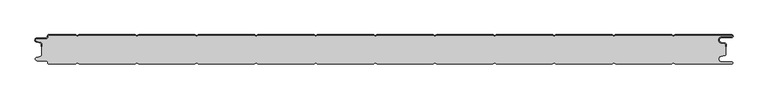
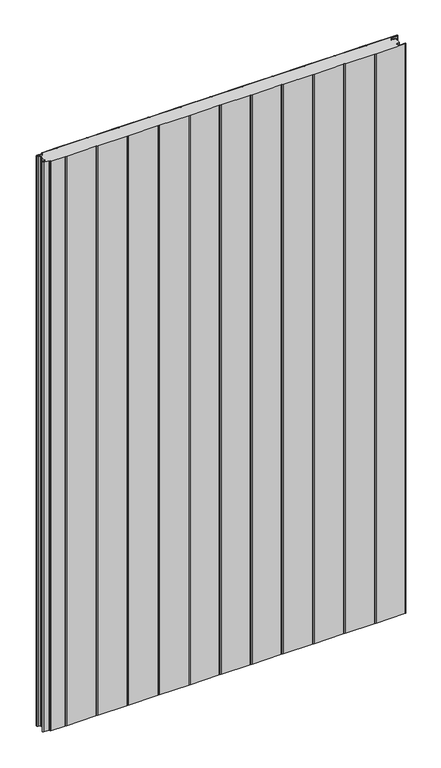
"""IFC4 building model written with IfcOpenShell, lengths in millimetres: plate geometry, PM1_Curtain-Panel_Perfil-Frigorífico : ACH_PM1_Panel-Acústico-Sectorización_50M."""

from ifc_helpers import new_model, si_unit, point, frame, frame_2d, origin, origin_with_axes, place, context, project, spatial, polyline, circle_curve, trimmed, segment, composite_curve, outline, extrude, source, transform, mapped, element, save
from ifc_brep_helpers import plane_surface, cylinder_surface, revolved_surface, advanced_brep


def plate_c0fbc9e0(model_context):
    return source(origin(), model_context, "Body", "SolidModel", [
        advanced_brep(
        [(-575.0, -15.878557, 1945.7507136), (-575.0, -20.0, 1945.7507136), (-574.2, -20.0, 1945.7507136), (-574.2, -15.878557, 1945.7507136), (-576.370137, -13.1503208, 1945.7507136), (-582.529863, -11.728236, 1945.7507136), (-581.9, -6.2, 1945.7507136), (-566.4, -6.2, 1945.7507136), (-563.6, -3.4, 1945.7507136), (-563.6, -2.0, 1945.7507136), (-562.4, -0.8, 1945.7507136), (-517.3143588, -0.8, 1945.7507136), (-514.4, -2.482606, 1945.7507136), (-511.4856412, -0.8, 1945.7507136), (-417.3143588, -0.8, 1945.7507136), (-414.4, -2.482606, 1945.7507136), (-411.4856412, -0.8, 1945.7507136), (-317.3143588, -0.8, 1945.7507136), (-314.4, -2.482606, 1945.7507136), (-311.4856412, -0.8, 1945.7507136), (-217.3143588, -0.8, 1945.7507136), (-214.4, -2.482606, 1945.7507136), (-211.4856412, -0.8, 1945.7507136), (-117.3143588, -0.8, 1945.7507136), (-114.4, -2.482606, 1945.7507136), (-111.4856412, -0.8, 1945.7507136), (-17.3143588, -0.8, 1945.7507136), (-14.4, -2.482606, 1945.7507136), (-11.4856412, -0.8, 1945.7507136), (82.6856412, -0.8, 1945.7507136), (85.6, -2.482606, 1945.7507136), (88.5143588, -0.8, 1945.7507136), (182.6856412, -0.8, 1945.7507136), (185.6, -2.482606, 1945.7507136), (188.5143588, -0.8, 1945.7507136), (282.6856412, -0.8, 1945.7507136), (285.6, -2.482606, 1945.7507136), (288.5143588, -0.8, 1945.7507136), (382.6856412, -0.8, 1945.7507136), (385.6, -2.482606, 1945.7507136), (388.5143588, -0.8, 1945.7507136), (482.6856412, -0.8, 1945.7507136), (485.6, -2.482606, 1945.7507136), (488.5143588, -0.8, 1945.7507136), (583.1, -0.8, 1945.7507136), (583.1, -4.2, 1945.7507136), (566.1, -4.2, 1945.7507136), (565.2664884, -13.7270771, 1945.7507136), (571.7125669, -14.8636953, 1945.7507136), (573.2, -16.6363492, 1945.7507136), (573.2, -20.0, 1945.7507136), (574.0, -20.0, 1945.7507136), (574.0, -16.6363492, 1945.7507136), (571.8514855, -14.0758491, 1945.7507136), (565.405407, -12.939231, 1945.7507136), (566.1, -5.0, 1945.7507136), (583.1, -5.0, 1945.7507136), (585.6, -2.5, 1945.7507136), (583.1, 0.0, 1945.7507136), (488.2999995, 0.0, 1945.7507136), (485.6, -1.5588455, 1945.7507136), (482.9000005, 0.0, 1945.7507136), (388.2999995, 0.0, 1945.7507136), (385.6, -1.5588455, 1945.7507136), (382.9000005, 0.0, 1945.7507136), (288.2999995, 0.0, 1945.7507136), (285.6, -1.5588455, 1945.7507136), (282.9000005, 0.0, 1945.7507136), (188.2999995, 0.0, 1945.7507136), (185.6, -1.5588455, 1945.7507136), (182.9000005, 0.0, 1945.7507136), (88.2999995, 0.0, 1945.7507136), (85.6, -1.5588455, 1945.7507136), (82.9000005, 0.0, 1945.7507136), (-11.7000005, 0.0, 1945.7507136), (-14.4, -1.5588455, 1945.7507136), (-17.0999995, 0.0, 1945.7507136), (-111.7000005, 0.0, 1945.7507136), (-114.4, -1.5588455, 1945.7507136), (-117.0999995, 0.0, 1945.7507136), (-211.7000005, 0.0, 1945.7507136), (-214.4, -1.5588455, 1945.7507136), (-217.0999995, 0.0, 1945.7507136), (-311.7000005, 0.0, 1945.7507136), (-314.4, -1.5588455, 1945.7507136), (-317.0999995, 0.0, 1945.7507136), (-411.7000005, 0.0, 1945.7507136), (-414.4, -1.5588455, 1945.7507136), (-417.0999995, 0.0, 1945.7507136), (-511.7000005, 0.0, 1945.7507136), (-514.4, -1.5588455, 1945.7507136), (-517.0999995, 0.0, 1945.7507136), (-562.4, 0.0, 1945.7507136), (-564.4, -2.0, 1945.7507136), (-564.4, -3.4, 1945.7507136), (-566.4, -5.4, 1945.7507136), (-581.9, -5.4, 1945.7507136), (-582.7098239, -12.5077322, 1945.7507136), (-576.5500979, -13.929817, 1945.7507136), (-575.0, -15.878557, 0.0), (-576.5500978, -13.9298169, 0.0), (-582.7098239, -12.507732, 0.0), (-581.9, -5.4, 0.0), (-566.4, -5.4, 0.0), (-564.4, -3.4, 0.0), (-564.4, -2.0, 0.0), (-562.4, 0.0, 0.0), (-517.0999995, 0.0, 0.0), (-514.4, -1.5588455, 0.0), (-511.7000005, 0.0, 0.0), (-417.0999995, 0.0, 0.0), (-414.4, -1.5588455, 0.0), (-411.7000005, 0.0, 0.0), (-317.0999995, 0.0, 0.0), (-314.4, -1.5588455, 0.0), (-311.7000005, 0.0, 0.0), (-217.0999995, 0.0, 0.0), (-214.4, -1.5588455, 0.0), (-211.7000005, 0.0, 0.0), (-117.0999995, 0.0, 0.0), (-114.4, -1.5588455, 0.0), (-111.7000005, 0.0, 0.0), (-17.0999995, 0.0, 0.0), (-14.4, -1.5588455, 0.0), (-11.7000005, 0.0, 0.0), (82.9000005, 0.0, 0.0), (85.6, -1.5588455, 0.0), (88.2999995, 0.0, 0.0), (182.9000005, 0.0, 0.0), (185.6, -1.5588455, 0.0), (188.2999995, 0.0, 0.0), (282.9000005, 0.0, 0.0), (285.6, -1.5588455, 0.0), (288.2999995, 0.0, 0.0), (382.9000005, 0.0, 0.0), (385.6, -1.5588455, 0.0), (388.2999995, 0.0, 0.0), (482.9000005, 0.0, 0.0), (485.6, -1.5588455, 0.0), (488.2999995, 0.0, 0.0), (583.1, 0.0, 0.0), (585.6, -2.5, 0.0), (583.1, -5.0, 0.0), (566.1, -5.0, 0.0), (565.405407, -12.939231, 0.0), (571.8514855, -14.0758491, 0.0), (574.0, -16.6363492, 0.0), (574.0, -20.0, 0.0), (573.2, -20.0, 0.0), (573.2, -16.6363492, 0.0), (571.7125669, -14.8636953, 0.0), (565.2664884, -13.7270772, 0.0), (566.1, -4.2, 0.0), (583.1, -4.2, 0.0), (583.1, -0.8, 0.0), (488.5143588, -0.8, 0.0), (485.6, -2.482606, 0.0), (482.6856412, -0.8, 0.0), (388.5143588, -0.8, 0.0), (385.6, -2.482606, 0.0), (382.6856412, -0.8, 0.0), (288.5143588, -0.8, 0.0), (285.6, -2.482606, 0.0), (282.6856412, -0.8, 0.0), (188.5143588, -0.8, 0.0), (185.6, -2.482606, 0.0), (182.6856412, -0.8, 0.0), (88.5143588, -0.8, 0.0), (85.6, -2.482606, 0.0), (82.6856412, -0.8, 0.0), (-11.4856412, -0.8, 0.0), (-14.4, -2.482606, 0.0), (-17.3143588, -0.8, 0.0), (-111.4856412, -0.8, 0.0), (-114.4, -2.482606, 0.0), (-117.3143588, -0.8, 0.0), (-211.4856412, -0.8, 0.0), (-214.4, -2.482606, 0.0), (-217.3143588, -0.8, 0.0), (-311.4856412, -0.8, 0.0), (-314.4, -2.482606, 0.0), (-317.3143588, -0.8, 0.0), (-411.4856412, -0.8, 0.0), (-414.4, -2.482606, 0.0), (-417.3143588, -0.8, 0.0), (-511.4856412, -0.8, 0.0), (-514.4, -2.482606, 0.0), (-517.3143588, -0.8, 0.0), (-562.4, -0.8, 0.0), (-563.6, -2.0, 0.0), (-563.6, -3.4, 0.0), (-566.4, -6.2, 0.0), (-581.9, -6.2, 0.0), (-582.529863, -11.7282362, 0.0), (-576.370137, -13.150321, 0.0), (-574.2, -15.878557, 0.0), (-574.2, -20.0, 0.0), (-575.0, -20.0, 0.0)],
        [
            (0, 1),
            (1, 2),
            (2, 3),
            (3, 4, circle_curve(frame((-577.0, -15.878557, 1945.7507136), z_axis=(0.0, 0.0, 1.0), x_axis=(1.0, 0.0, 0.0)), 2.8)),
            (4, 5),
            (5, 6, circle_curve(frame((-581.9, -9.0, 1945.7507136), z_axis=(0.0, 0.0, -1.0), x_axis=(1.0, 0.0, 0.0)), 2.8)),
            (6, 7),
            (7, 8, circle_curve(frame((-566.4, -3.4, 1945.7507136), z_axis=(0.0, 0.0, 1.0), x_axis=(1.0, 0.0, 0.0)), 2.8)),
            (8, 9),
            (9, 10, circle_curve(frame((-562.4, -2.0, 1945.7507136), z_axis=(0.0, 0.0, -1.0), x_axis=(1.0, 0.0, 0.0)), 1.2)),
            (10, 11),
            (11, 12),
            (12, 13),
            (13, 14),
            (14, 15),
            (15, 16),
            (16, 17),
            (17, 18),
            (18, 19),
            (19, 20),
            (20, 21),
            (21, 22),
            (22, 23),
            (23, 24),
            (24, 25),
            (25, 26),
            (26, 27),
            (27, 28),
            (28, 29),
            (29, 30),
            (30, 31),
            (31, 32),
            (32, 33),
            (33, 34),
            (34, 35),
            (35, 36),
            (36, 37),
            (37, 38),
            (38, 39),
            (39, 40),
            (40, 41),
            (41, 42),
            (42, 43),
            (43, 44),
            (44, 45, circle_curve(frame((583.1, -2.5, 1945.7507136), z_axis=(0.0, 0.0, -1.0), x_axis=(1.0, 0.0, 0.0)), 1.7)),
            (45, 46),
            (46, 47, circle_curve(frame((566.1, -9.0, 1945.7507136), z_axis=(0.0, 0.0, 1.0), x_axis=(1.0, 0.0, 0.0)), 4.8)),
            (47, 48),
            (48, 49, circle_curve(frame((571.4, -16.6363492, 1945.7507136), z_axis=(0.0, 0.0, -1.0), x_axis=(1.0, 0.0, 0.0)), 1.8)),
            (49, 50),
            (50, 51),
            (51, 52),
            (52, 53, circle_curve(frame((571.4, -16.6363492, 1945.7507136), z_axis=(0.0, 0.0, 1.0), x_axis=(1.0, 0.0, 0.0)), 2.6)),
            (53, 54),
            (54, 55, circle_curve(frame((566.1, -9.0, 1945.7507136), z_axis=(0.0, 0.0, -1.0), x_axis=(1.0, 0.0, 0.0)), 4.0)),
            (55, 56),
            (56, 57, circle_curve(frame((583.1, -2.5, 1945.7507136), z_axis=(0.0, 0.0, 1.0), x_axis=(1.0, 0.0, 0.0)), 2.5)),
            (57, 58, circle_curve(frame((583.1, -2.5, 1945.7507136), z_axis=(0.0, 0.0, 1.0), x_axis=(1.0, 0.0, 0.0)), 2.5)),
            (58, 59),
            (59, 60),
            (60, 61),
            (61, 62),
            (62, 63),
            (63, 64),
            (64, 65),
            (65, 66),
            (66, 67),
            (67, 68),
            (68, 69),
            (69, 70),
            (70, 71),
            (71, 72),
            (72, 73),
            (73, 74),
            (74, 75),
            (75, 76),
            (76, 77),
            (77, 78),
            (78, 79),
            (79, 80),
            (80, 81),
            (81, 82),
            (82, 83),
            (83, 84),
            (84, 85),
            (85, 86),
            (86, 87),
            (87, 88),
            (88, 89),
            (89, 90),
            (90, 91),
            (91, 92),
            (92, 93, circle_curve(frame((-562.4, -2.0, 1945.7507136), z_axis=(0.0, 0.0, 1.0), x_axis=(1.0, 0.0, 0.0)), 2.0)),
            (93, 94),
            (94, 95, circle_curve(frame((-566.4, -3.4, 1945.7507136), z_axis=(0.0, 0.0, -1.0), x_axis=(1.0, 0.0, 0.0)), 2.0)),
            (95, 96),
            (96, 97, circle_curve(frame((-581.9, -9.0, 1945.7507136), z_axis=(0.0, 0.0, 1.0), x_axis=(1.0, 0.0, 0.0)), 3.6)),
            (97, 98),
            (98, 0, circle_curve(frame((-577.0, -15.878557, 1945.7507136), z_axis=(0.0, 0.0, -1.0), x_axis=(1.0, 0.0, 0.0)), 2.0)),
            (99, 100, circle_curve(frame((-577.0, -15.878557, 0.0), z_axis=(0.0, 0.0, 1.0), x_axis=(1.0, 0.0, 0.0)), 2.0)),
            (100, 101),
            (101, 102, circle_curve(frame((-581.9, -9.0, 0.0), z_axis=(0.0, 0.0, -1.0), x_axis=(1.0, 0.0, 0.0)), 3.6)),
            (102, 103),
            (103, 104, circle_curve(frame((-566.4, -3.4, 0.0), z_axis=(0.0, 0.0, 1.0), x_axis=(1.0, 0.0, 0.0)), 2.0)),
            (104, 105),
            (105, 106, circle_curve(frame((-562.4, -2.0, 0.0), z_axis=(0.0, 0.0, -1.0), x_axis=(1.0, 0.0, 0.0)), 2.0)),
            (106, 107),
            (107, 108),
            (108, 109),
            (109, 110),
            (110, 111),
            (111, 112),
            (112, 113),
            (113, 114),
            (114, 115),
            (115, 116),
            (116, 117),
            (117, 118),
            (118, 119),
            (119, 120),
            (120, 121),
            (121, 122),
            (122, 123),
            (123, 124),
            (124, 125),
            (125, 126),
            (126, 127),
            (127, 128),
            (128, 129),
            (129, 130),
            (130, 131),
            (131, 132),
            (132, 133),
            (133, 134),
            (134, 135),
            (135, 136),
            (136, 137),
            (137, 138),
            (138, 139),
            (139, 140),
            (140, 141, circle_curve(frame((583.1, -2.5, 0.0), z_axis=(0.0, 0.0, -1.0), x_axis=(1.0, 0.0, 0.0)), 2.5)),
            (141, 142, circle_curve(frame((583.1, -2.5, 0.0), z_axis=(0.0, 0.0, -1.0), x_axis=(1.0, 0.0, 0.0)), 2.5)),
            (142, 143),
            (143, 144, circle_curve(frame((566.1, -9.0, 0.0), z_axis=(0.0, 0.0, 1.0), x_axis=(1.0, 0.0, 0.0)), 4.0)),
            (144, 145),
            (145, 146, circle_curve(frame((571.4, -16.6363492, 0.0), z_axis=(0.0, 0.0, -1.0), x_axis=(1.0, 0.0, 0.0)), 2.6)),
            (146, 147),
            (147, 148),
            (148, 149),
            (149, 150, circle_curve(frame((571.4, -16.6363492, 0.0), z_axis=(0.0, 0.0, 1.0), x_axis=(1.0, 0.0, 0.0)), 1.8)),
            (150, 151),
            (151, 152, circle_curve(frame((566.1, -9.0, 0.0), z_axis=(0.0, 0.0, -1.0), x_axis=(1.0, 0.0, 0.0)), 4.8)),
            (152, 153),
            (153, 154, circle_curve(frame((583.1, -2.5, 0.0), z_axis=(0.0, 0.0, 1.0), x_axis=(1.0, 0.0, 0.0)), 1.7)),
            (154, 155),
            (155, 156),
            (156, 157),
            (157, 158),
            (158, 159),
            (159, 160),
            (160, 161),
            (161, 162),
            (162, 163),
            (163, 164),
            (164, 165),
            (165, 166),
            (166, 167),
            (167, 168),
            (168, 169),
            (169, 170),
            (170, 171),
            (171, 172),
            (172, 173),
            (173, 174),
            (174, 175),
            (175, 176),
            (176, 177),
            (177, 178),
            (178, 179),
            (179, 180),
            (180, 181),
            (181, 182),
            (182, 183),
            (183, 184),
            (184, 185),
            (185, 186),
            (186, 187),
            (187, 188),
            (188, 189, circle_curve(frame((-562.4, -2.0, 0.0), z_axis=(0.0, 0.0, 1.0), x_axis=(1.0, 0.0, 0.0)), 1.2)),
            (189, 190),
            (190, 191, circle_curve(frame((-566.4, -3.4, 0.0), z_axis=(0.0, 0.0, -1.0), x_axis=(1.0, 0.0, 0.0)), 2.8)),
            (191, 192),
            (192, 193, circle_curve(frame((-581.9, -9.0, 0.0), z_axis=(0.0, 0.0, 1.0), x_axis=(1.0, 0.0, 0.0)), 2.8)),
            (193, 194),
            (194, 195, circle_curve(frame((-577.0, -15.878557, 0.0), z_axis=(0.0, 0.0, -1.0), x_axis=(1.0, 0.0, 0.0)), 2.8)),
            (195, 196),
            (196, 197),
            (197, 99),
            (0, 99),
            (197, 1),
            (196, 2),
            (195, 3),
            (194, 4),
            (193, 5),
            (192, 6),
            (191, 7),
            (190, 8),
            (189, 9),
            (188, 10),
            (187, 11),
            (186, 12),
            (185, 13),
            (184, 14),
            (183, 15),
            (182, 16),
            (181, 17),
            (180, 18),
            (179, 19),
            (178, 20),
            (177, 21),
            (176, 22),
            (175, 23),
            (174, 24),
            (173, 25),
            (172, 26),
            (171, 27),
            (170, 28),
            (169, 29),
            (168, 30),
            (167, 31),
            (166, 32),
            (165, 33),
            (164, 34),
            (163, 35),
            (162, 36),
            (161, 37),
            (160, 38),
            (159, 39),
            (158, 40),
            (157, 41),
            (156, 42),
            (155, 43),
            (154, 44),
            (153, 45),
            (152, 46),
            (151, 47),
            (150, 48),
            (149, 49),
            (148, 50),
            (147, 51),
            (146, 52),
            (145, 53),
            (144, 54),
            (143, 55),
            (142, 56),
            (140, 58),
            (139, 59),
            (138, 60),
            (137, 61),
            (136, 62),
            (135, 63),
            (134, 64),
            (133, 65),
            (132, 66),
            (131, 67),
            (130, 68),
            (129, 69),
            (128, 70),
            (127, 71),
            (126, 72),
            (125, 73),
            (124, 74),
            (123, 75),
            (122, 76),
            (121, 77),
            (120, 78),
            (119, 79),
            (118, 80),
            (117, 81),
            (116, 82),
            (115, 83),
            (114, 84),
            (113, 85),
            (112, 86),
            (111, 87),
            (110, 88),
            (109, 89),
            (108, 90),
            (107, 91),
            (106, 92),
            (105, 93),
            (104, 94),
            (103, 95),
            (102, 96),
            (101, 97),
            (100, 98),
        ],
        [
            plane_surface(frame((-575.0, 0.0, 1945.7507136), z_axis=(0.0, 0.0, 1.0), x_axis=(0.0, 1.0, 0.0))),
            plane_surface(frame((-575.0, 0.0, 0.0), z_axis=(0.0, 0.0, -1.0), x_axis=(0.0, 1.0, 0.0))),
            plane_surface(frame((-575.0, -15.878557, 1945.7507136), z_axis=(-1.0, 0.0, 0.0), x_axis=(0.0, 0.0, -1.0))),
            plane_surface(frame((-575.0, -20.0, 1945.7507136), z_axis=(0.0, -1.0, 0.0), x_axis=(0.0, 0.0, -1.0))),
            plane_surface(frame((-574.2, -20.0, 1945.7507136), z_axis=(1.0, 0.0, 0.0), x_axis=(0.0, 0.0, -1.0))),
            cylinder_surface(frame((-577.0, -15.878557, 1945.7507136), z_axis=(0.0, 0.0, 1.0), x_axis=(1.0, 0.0, 0.0)), 2.8),
            plane_surface(frame((-576.370137, -13.150321, 1945.7507136), z_axis=(0.22495108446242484, 0.9743700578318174, 0.0), x_axis=(0.0, 0.0, -1.0))),
            revolved_surface(polyline([(-579.1, -9.0, 0.0), (-579.1, -9.0, 1945.7507136)]), (-581.9, -9.0, 1945.7507136), (0.0, 0.0, -1.0)),
            plane_surface(frame((-581.9, -6.2, 1945.7507136), z_axis=(0.0, -1.0, 0.0), x_axis=(0.0, 0.0, -1.0))),
            cylinder_surface(frame((-566.4, -3.4, 1945.7507136), z_axis=(0.0, 0.0, 1.0), x_axis=(1.0, 0.0, 0.0)), 2.8),
            plane_surface(frame((-563.6, -3.4, 1945.7507136), z_axis=(1.0, 0.0, 0.0), x_axis=(0.0, 0.0, -1.0))),
            revolved_surface(polyline([(-561.1999999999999, -2.0, 0.0), (-561.1999999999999, -2.0, 1945.7507136)]), (-562.4, -2.0, 1945.7507136), (0.0, 0.0, -1.0)),
            plane_surface(frame((-562.4, -0.8, 1945.7507136), z_axis=(0.0, -1.0, 0.0), x_axis=(0.0, 0.0, -1.0))),
            plane_surface(frame((-517.3143588, -0.8, 1945.7507136), z_axis=(-0.5000000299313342, -0.8660253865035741, 0.0), x_axis=(0.0, 0.0, -1.0))),
            plane_surface(frame((-514.4, -2.482606, 1945.7507136), z_axis=(0.5000000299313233, -0.8660253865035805, 0.0), x_axis=(0.0, 0.0, -1.0))),
            plane_surface(frame((-511.4856412, -0.8, 1945.7507136), z_axis=(0.0, -1.0, 0.0), x_axis=(0.0, 0.0, -1.0))),
            plane_surface(frame((-417.3143588, -0.8, 1945.7507136), z_axis=(-0.5000000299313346, -0.8660253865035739, 0.0), x_axis=(0.0, 0.0, -1.0))),
            plane_surface(frame((-414.4, -2.482606, 1945.7507136), z_axis=(0.5000000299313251, -0.8660253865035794, 0.0), x_axis=(0.0, 0.0, -1.0))),
            plane_surface(frame((-411.4856412, -0.8, 1945.7507136), z_axis=(0.0, -1.0, 0.0), x_axis=(0.0, 0.0, -1.0))),
            plane_surface(frame((-317.3143588, -0.8, 1945.7507136), z_axis=(-0.5000000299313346, -0.866025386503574, 0.0), x_axis=(0.0, 0.0, -1.0))),
            plane_surface(frame((-314.4, -2.482606, 1945.7507136), z_axis=(0.5000000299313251, -0.8660253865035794, 0.0), x_axis=(0.0, 0.0, -1.0))),
            plane_surface(frame((-311.4856412, -0.8, 1945.7507136), z_axis=(0.0, -1.0, 0.0), x_axis=(0.0, 0.0, -1.0))),
            plane_surface(frame((-217.3143588, -0.8, 1945.7507136), z_axis=(-0.5000000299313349, -0.8660253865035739, 0.0), x_axis=(0.0, 0.0, -1.0))),
            plane_surface(frame((-214.4, -2.482606, 1945.7507136), z_axis=(0.5000000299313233, -0.8660253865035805, 0.0), x_axis=(0.0, 0.0, -1.0))),
            plane_surface(frame((-211.4856412, -0.8, 1945.7507136), z_axis=(0.0, -1.0, 0.0), x_axis=(0.0, 0.0, -1.0))),
            plane_surface(frame((-117.3143588, -0.8, 1945.7507136), z_axis=(-0.5000000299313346, -0.866025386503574, 0.0), x_axis=(0.0, 0.0, -1.0))),
            plane_surface(frame((-114.4, -2.482606, 1945.7507136), z_axis=(0.5000000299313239, -0.8660253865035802, 0.0), x_axis=(0.0, 0.0, -1.0))),
            plane_surface(frame((-111.4856412, -0.8, 1945.7507136), z_axis=(0.0, -1.0, 0.0), x_axis=(0.0, 0.0, -1.0))),
            plane_surface(frame((-17.3143588, -0.8, 1945.7507136), z_axis=(-0.5000000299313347, -0.8660253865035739, 0.0), x_axis=(0.0, 0.0, -1.0))),
            plane_surface(frame((-14.4, -2.482606, 1945.7507136), z_axis=(0.5000000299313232, -0.8660253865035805, 0.0), x_axis=(0.0, 0.0, -1.0))),
            plane_surface(frame((-11.4856412, -0.8, 1945.7507136), z_axis=(0.0, -1.0, 0.0), x_axis=(0.0, 0.0, -1.0))),
            plane_surface(frame((82.6856412, -0.8, 1945.7507136), z_axis=(-0.5000000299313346, -0.866025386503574, 0.0), x_axis=(0.0, 0.0, -1.0))),
            plane_surface(frame((85.6, -2.482606, 1945.7507136), z_axis=(0.5000000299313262, -0.8660253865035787, 0.0), x_axis=(0.0, 0.0, -1.0))),
            plane_surface(frame((88.5143588, -0.8, 1945.7507136), z_axis=(0.0, -1.0, 0.0), x_axis=(0.0, 0.0, -1.0))),
            plane_surface(frame((182.6856412, -0.8, 1945.7507136), z_axis=(-0.5000000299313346, -0.8660253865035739, 0.0), x_axis=(0.0, 0.0, -1.0))),
            plane_surface(frame((185.6, -2.482606, 1945.7507136), z_axis=(0.5000000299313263, -0.8660253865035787, 0.0), x_axis=(0.0, 0.0, -1.0))),
            plane_surface(frame((188.5143588, -0.8, 1945.7507136), z_axis=(0.0, -1.0, 0.0), x_axis=(0.0, 0.0, -1.0))),
            plane_surface(frame((282.6856412, -0.8, 1945.7507136), z_axis=(-0.5000000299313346, -0.8660253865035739, 0.0), x_axis=(0.0, 0.0, -1.0))),
            plane_surface(frame((285.6, -2.482606, 1945.7507136), z_axis=(0.5000000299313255, -0.8660253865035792, 0.0), x_axis=(0.0, 0.0, -1.0))),
            plane_surface(frame((288.5143588, -0.8, 1945.7507136), z_axis=(0.0, -1.0, 0.0), x_axis=(0.0, 0.0, -1.0))),
            plane_surface(frame((382.6856412, -0.8, 1945.7507136), z_axis=(-0.5000000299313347, -0.8660253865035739, 0.0), x_axis=(0.0, 0.0, -1.0))),
            plane_surface(frame((385.6, -2.482606, 1945.7507136), z_axis=(0.5000000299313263, -0.8660253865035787, 0.0), x_axis=(0.0, 0.0, -1.0))),
            plane_surface(frame((388.5143588, -0.8, 1945.7507136), z_axis=(0.0, -1.0, 0.0), x_axis=(0.0, 0.0, -1.0))),
            plane_surface(frame((482.6856412, -0.8, 1945.7507136), z_axis=(-0.5000000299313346, -0.866025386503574, 0.0), x_axis=(0.0, 0.0, -1.0))),
            plane_surface(frame((485.6, -2.482606, 1945.7507136), z_axis=(0.5000000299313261, -0.8660253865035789, 0.0), x_axis=(0.0, 0.0, -1.0))),
            plane_surface(frame((535.6, -0.8, 1945.7507136), z_axis=(0.0, -1.0, 0.0), x_axis=(0.0, 0.0, -1.0))),
            revolved_surface(polyline([(584.8000000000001, -2.5, 0.0), (584.8000000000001, -2.5, 1945.7507136)]), (583.1, -2.5, 1945.7507136), (0.0, 0.0, -1.0)),
            plane_surface(frame((583.1, -4.2, 1945.7507136), z_axis=(0.0, 1.0, 0.0), x_axis=(0.0, 0.0, -1.0))),
            cylinder_surface(frame((566.1, -9.0, 1945.7507136), z_axis=(0.0, 0.0, 1.0), x_axis=(1.0, 0.0, 0.0)), 4.8),
            plane_surface(frame((565.2664884, -13.7270772, 1945.7507136), z_axis=(-0.17364825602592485, -0.9848077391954, 0.0), x_axis=(0.0, 0.0, -1.0))),
            revolved_surface(polyline([(573.1999999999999, -16.6363492, 0.0), (573.1999999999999, -16.6363492, 1945.7507136)]), (571.4, -16.6363492, 1945.7507136), (0.0, 0.0, -1.0)),
            plane_surface(frame((573.2, -16.6363492, 1945.7507136), z_axis=(-1.0, 0.0, 0.0), x_axis=(0.0, 0.0, -1.0))),
            plane_surface(frame((573.2, -20.0, 1945.7507136), z_axis=(0.0, -1.0, 0.0), x_axis=(0.0, 0.0, -1.0))),
            plane_surface(frame((574.0, -20.0, 1945.7507136), z_axis=(1.0, 0.0, 0.0), x_axis=(0.0, 0.0, -1.0))),
            cylinder_surface(frame((571.4, -16.6363492, 1945.7507136), z_axis=(0.0, 0.0, 1.0), x_axis=(1.0, 0.0, 0.0)), 2.6),
            plane_surface(frame((571.8514855, -14.0758491, 1945.7507136), z_axis=(0.1736482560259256, 0.9848077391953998, 0.0), x_axis=(0.0, 0.0, -1.0))),
            revolved_surface(polyline([(570.1, -9.0, 0.0), (570.1, -9.0, 1945.7507136)]), (566.1, -9.0, 1945.7507136), (0.0, 0.0, -1.0)),
            plane_surface(frame((566.1, -5.0, 1945.7507136), z_axis=(0.0, -1.0, 0.0), x_axis=(0.0, 0.0, -1.0))),
            cylinder_surface(frame((583.1, -2.5, 1945.7507136), z_axis=(0.0, 0.0, 1.0), x_axis=(1.0, 0.0, 0.0)), 2.5),
            plane_surface(frame((535.6, 0.0, 1945.7507136), z_axis=(0.0, 1.0, 0.0), x_axis=(0.0, 0.0, -1.0))),
            plane_surface(frame((488.2999995, 0.0, 1945.7507136), z_axis=(-0.5000000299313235, 0.8660253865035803, 0.0), x_axis=(0.0, 0.0, -1.0))),
            plane_surface(frame((485.6, -1.5588455, 1945.7507136), z_axis=(0.5000000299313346, 0.8660253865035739, 0.0), x_axis=(0.0, 0.0, -1.0))),
            plane_surface(frame((482.9000005, 0.0, 1945.7507136), z_axis=(0.0, 1.0, 0.0), x_axis=(0.0, 0.0, -1.0))),
            plane_surface(frame((388.2999995, 0.0, 1945.7507136), z_axis=(-0.5000000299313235, 0.8660253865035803, 0.0), x_axis=(0.0, 0.0, -1.0))),
            plane_surface(frame((385.6, -1.5588455, 1945.7507136), z_axis=(0.5000000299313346, 0.8660253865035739, 0.0), x_axis=(0.0, 0.0, -1.0))),
            plane_surface(frame((382.9000005, 0.0, 1945.7507136), z_axis=(0.0, 1.0, 0.0), x_axis=(0.0, 0.0, -1.0))),
            plane_surface(frame((288.2999995, 0.0, 1945.7507136), z_axis=(-0.5000000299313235, 0.8660253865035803, 0.0), x_axis=(0.0, 0.0, -1.0))),
            plane_surface(frame((285.6, -1.5588455, 1945.7507136), z_axis=(0.5000000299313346, 0.8660253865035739, 0.0), x_axis=(0.0, 0.0, -1.0))),
            plane_surface(frame((282.9000005, 0.0, 1945.7507136), z_axis=(0.0, 1.0, 0.0), x_axis=(0.0, 0.0, -1.0))),
            plane_surface(frame((188.2999995, 0.0, 1945.7507136), z_axis=(-0.5000000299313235, 0.8660253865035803, 0.0), x_axis=(0.0, 0.0, -1.0))),
            plane_surface(frame((185.6, -1.5588455, 1945.7507136), z_axis=(0.5000000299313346, 0.8660253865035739, 0.0), x_axis=(0.0, 0.0, -1.0))),
            plane_surface(frame((182.9000005, 0.0, 1945.7507136), z_axis=(0.0, 1.0, 0.0), x_axis=(0.0, 0.0, -1.0))),
            plane_surface(frame((88.2999995, 0.0, 1945.7507136), z_axis=(-0.5000000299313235, 0.8660253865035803, 0.0), x_axis=(0.0, 0.0, -1.0))),
            plane_surface(frame((85.6, -1.5588455, 1945.7507136), z_axis=(0.5000000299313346, 0.8660253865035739, 0.0), x_axis=(0.0, 0.0, -1.0))),
            plane_surface(frame((82.9000005, 0.0, 1945.7507136), z_axis=(0.0, 1.0, 0.0), x_axis=(0.0, 0.0, -1.0))),
            plane_surface(frame((-11.7000005, 0.0, 1945.7507136), z_axis=(-0.5000000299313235, 0.8660253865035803, 0.0), x_axis=(0.0, 0.0, -1.0))),
            plane_surface(frame((-14.4, -1.5588455, 1945.7507136), z_axis=(0.5000000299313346, 0.8660253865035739, 0.0), x_axis=(0.0, 0.0, -1.0))),
            plane_surface(frame((-17.0999995, 0.0, 1945.7507136), z_axis=(0.0, 1.0, 0.0), x_axis=(0.0, 0.0, -1.0))),
            plane_surface(frame((-111.7000005, 0.0, 1945.7507136), z_axis=(-0.5000000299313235, 0.8660253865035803, 0.0), x_axis=(0.0, 0.0, -1.0))),
            plane_surface(frame((-114.4, -1.5588455, 1945.7507136), z_axis=(0.5000000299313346, 0.8660253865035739, 0.0), x_axis=(0.0, 0.0, -1.0))),
            plane_surface(frame((-117.0999995, 0.0, 1945.7507136), z_axis=(0.0, 1.0, 0.0), x_axis=(0.0, 0.0, -1.0))),
            plane_surface(frame((-211.7000005, 0.0, 1945.7507136), z_axis=(-0.5000000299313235, 0.8660253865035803, 0.0), x_axis=(0.0, 0.0, -1.0))),
            plane_surface(frame((-214.4, -1.5588455, 1945.7507136), z_axis=(0.5000000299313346, 0.8660253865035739, 0.0), x_axis=(0.0, 0.0, -1.0))),
            plane_surface(frame((-217.0999995, 0.0, 1945.7507136), z_axis=(0.0, 1.0, 0.0), x_axis=(0.0, 0.0, -1.0))),
            plane_surface(frame((-311.7000005, 0.0, 1945.7507136), z_axis=(-0.5000000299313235, 0.8660253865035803, 0.0), x_axis=(0.0, 0.0, -1.0))),
            plane_surface(frame((-314.4, -1.5588455, 1945.7507136), z_axis=(0.5000000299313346, 0.8660253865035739, 0.0), x_axis=(0.0, 0.0, -1.0))),
            plane_surface(frame((-317.0999995, 0.0, 1945.7507136), z_axis=(0.0, 1.0, 0.0), x_axis=(0.0, 0.0, -1.0))),
            plane_surface(frame((-411.7000005, 0.0, 1945.7507136), z_axis=(-0.5000000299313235, 0.8660253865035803, 0.0), x_axis=(0.0, 0.0, -1.0))),
            plane_surface(frame((-414.4, -1.5588455, 1945.7507136), z_axis=(0.5000000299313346, 0.8660253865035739, 0.0), x_axis=(0.0, 0.0, -1.0))),
            plane_surface(frame((-417.0999995, 0.0, 1945.7507136), z_axis=(0.0, 1.0, 0.0), x_axis=(0.0, 0.0, -1.0))),
            plane_surface(frame((-511.7000005, 0.0, 1945.7507136), z_axis=(-0.5000000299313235, 0.8660253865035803, 0.0), x_axis=(0.0, 0.0, -1.0))),
            plane_surface(frame((-514.4, -1.5588455, 1945.7507136), z_axis=(0.5000000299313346, 0.8660253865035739, 0.0), x_axis=(0.0, 0.0, -1.0))),
            plane_surface(frame((-517.0999995, 0.0, 1945.7507136), z_axis=(0.0, 1.0, 0.0), x_axis=(0.0, 0.0, -1.0))),
            cylinder_surface(frame((-562.4, -2.0, 1945.7507136), z_axis=(0.0, 0.0, 1.0), x_axis=(1.0, 0.0, 0.0)), 2.0),
            plane_surface(frame((-564.4, -2.0, 1945.7507136), z_axis=(-1.0, 0.0, 0.0), x_axis=(0.0, 0.0, -1.0))),
            revolved_surface(polyline([(-564.4, -3.4, 0.0), (-564.4, -3.4, 1945.7507136)]), (-566.4, -3.4, 1945.7507136), (0.0, 0.0, -1.0)),
            plane_surface(frame((-566.4, -5.4, 1945.7507136), z_axis=(0.0, 1.0, 0.0), x_axis=(0.0, 0.0, -1.0))),
            cylinder_surface(frame((-581.9, -9.0, 1945.7507136), z_axis=(0.0, 0.0, 1.0), x_axis=(1.0, 0.0, 0.0)), 3.6),
            plane_surface(frame((-582.7098239, -12.507732, 1945.7507136), z_axis=(-0.22495108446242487, -0.9743700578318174, 0.0), x_axis=(0.0, 0.0, -1.0))),
            revolved_surface(polyline([(-575.0, -15.878557, 0.0), (-575.0, -15.878557, 1945.7507136)]), (-577.0, -15.878557, 1945.7507136), (0.0, 0.0, -1.0)),
        ],
        [
            (0, [[1, 2, 3, 4, 5, 6, 7, 8, 9, 10, 11, 12, 13, 14, 15, 16, 17, 18, 19, 20, 21, 22, 23, 24, 25, 26, 27, 28, 29, 30, 31, 32, 33, 34, 35, 36, 37, 38, 39, 40, 41, 42, 43, 44, 45, 46, 47, 48, 49, 50, 51, 52, 53, 54, 55, 56, 57, 58, 59, 60, 61, 62, 63, 64, 65, 66, 67, 68, 69, 70, 71, 72, 73, 74, 75, 76, 77, 78, 79, 80, 81, 82, 83, 84, 85, 86, 87, 88, 89, 90, 91, 92, 93, 94, 95, 96, 97, 98, 99]]),
            (1, [[100, 101, 102, 103, 104, 105, 106, 107, 108, 109, 110, 111, 112, 113, 114, 115, 116, 117, 118, 119, 120, 121, 122, 123, 124, 125, 126, 127, 128, 129, 130, 131, 132, 133, 134, 135, 136, 137, 138, 139, 140, 141, 142, 143, 144, 145, 146, 147, 148, 149, 150, 151, 152, 153, 154, 155, 156, 157, 158, 159, 160, 161, 162, 163, 164, 165, 166, 167, 168, 169, 170, 171, 172, 173, 174, 175, 176, 177, 178, 179, 180, 181, 182, 183, 184, 185, 186, 187, 188, 189, 190, 191, 192, 193, 194, 195, 196, 197, 198]]),
            (2, [[-1, 199, -198, 200]]),
            (3, [[-2, -200, -197, 201]]),
            (4, [[-3, -201, -196, 202]]),
            (5, [[-4, -202, -195, 203]]),
            (6, [[-5, -203, -194, 204]]),
            (7, [[-6, -204, -193, 205]]),
            (8, [[-7, -205, -192, 206]]),
            (9, [[-8, -206, -191, 207]]),
            (10, [[-9, -207, -190, 208]]),
            (11, [[-10, -208, -189, 209]]),
            (12, [[-11, -209, -188, 210]]),
            (13, [[-12, -210, -187, 211]]),
            (14, [[-13, -211, -186, 212]]),
            (15, [[-14, -212, -185, 213]]),
            (16, [[-15, -213, -184, 214]]),
            (17, [[-16, -214, -183, 215]]),
            (18, [[-17, -215, -182, 216]]),
            (19, [[-18, -216, -181, 217]]),
            (20, [[-19, -217, -180, 218]]),
            (21, [[-20, -218, -179, 219]]),
            (22, [[-21, -219, -178, 220]]),
            (23, [[-22, -220, -177, 221]]),
            (24, [[-23, -221, -176, 222]]),
            (25, [[-24, -222, -175, 223]]),
            (26, [[-25, -223, -174, 224]]),
            (27, [[-26, -224, -173, 225]]),
            (28, [[-27, -225, -172, 226]]),
            (29, [[-28, -226, -171, 227]]),
            (30, [[-29, -227, -170, 228]]),
            (31, [[-30, -228, -169, 229]]),
            (32, [[-31, -229, -168, 230]]),
            (33, [[-32, -230, -167, 231]]),
            (34, [[-33, -231, -166, 232]]),
            (35, [[-34, -232, -165, 233]]),
            (36, [[-35, -233, -164, 234]]),
            (37, [[-36, -234, -163, 235]]),
            (38, [[-37, -235, -162, 236]]),
            (39, [[-38, -236, -161, 237]]),
            (40, [[-39, -237, -160, 238]]),
            (41, [[-40, -238, -159, 239]]),
            (42, [[-41, -239, -158, 240]]),
            (43, [[-42, -240, -157, 241]]),
            (44, [[-43, -241, -156, 242]]),
            (45, [[-44, -242, -155, 243]]),
            (46, [[-45, -243, -154, 244]]),
            (47, [[-46, -244, -153, 245]]),
            (48, [[-47, -245, -152, 246]]),
            (49, [[-48, -246, -151, 247]]),
            (50, [[-49, -247, -150, 248]]),
            (51, [[-50, -248, -149, 249]]),
            (52, [[-51, -249, -148, 250]]),
            (53, [[-52, -250, -147, 251]]),
            (54, [[-53, -251, -146, 252]]),
            (55, [[-54, -252, -145, 253]]),
            (56, [[-55, -253, -144, 254]]),
            (57, [[-56, -254, -143, 255]]),
            (58, [[-255, -142, -141, 256, -58, -57]]),
            (59, [[-59, -256, -140, 257]]),
            (60, [[-60, -257, -139, 258]]),
            (61, [[-61, -258, -138, 259]]),
            (62, [[-62, -259, -137, 260]]),
            (63, [[-63, -260, -136, 261]]),
            (64, [[-64, -261, -135, 262]]),
            (65, [[-65, -262, -134, 263]]),
            (66, [[-66, -263, -133, 264]]),
            (67, [[-67, -264, -132, 265]]),
            (68, [[-68, -265, -131, 266]]),
            (69, [[-69, -266, -130, 267]]),
            (70, [[-70, -267, -129, 268]]),
            (71, [[-71, -268, -128, 269]]),
            (72, [[-72, -269, -127, 270]]),
            (73, [[-73, -270, -126, 271]]),
            (74, [[-74, -271, -125, 272]]),
            (75, [[-75, -272, -124, 273]]),
            (76, [[-76, -273, -123, 274]]),
            (77, [[-77, -274, -122, 275]]),
            (78, [[-78, -275, -121, 276]]),
            (79, [[-79, -276, -120, 277]]),
            (80, [[-80, -277, -119, 278]]),
            (81, [[-81, -278, -118, 279]]),
            (82, [[-82, -279, -117, 280]]),
            (83, [[-83, -280, -116, 281]]),
            (84, [[-84, -281, -115, 282]]),
            (85, [[-85, -282, -114, 283]]),
            (86, [[-86, -283, -113, 284]]),
            (87, [[-87, -284, -112, 285]]),
            (88, [[-88, -285, -111, 286]]),
            (89, [[-89, -286, -110, 287]]),
            (90, [[-90, -287, -109, 288]]),
            (91, [[-91, -288, -108, 289]]),
            (92, [[-92, -289, -107, 290]]),
            (93, [[-93, -290, -106, 291]]),
            (94, [[-94, -291, -105, 292]]),
            (95, [[-95, -292, -104, 293]]),
            (96, [[-96, -293, -103, 294]]),
            (97, [[-97, -294, -102, 295]]),
            (98, [[-98, -295, -101, 296]]),
            (99, [[-99, -296, -100, -199]]),
        ],
    ),
        extrude(outline(composite_curve([segment(polyline([(-574.2, -34.1214426), (-574.2, -15.8785573)]), True, "CONTINUOUS"), segment(trimmed(circle_curve(frame_2d((-577.0, -15.8785573)), 2.8), [point((-574.2, -15.8785573))], [point((-576.370137, -13.1503212))], True, "CARTESIAN"), True, "CONTINUOUS"), segment(polyline([(-576.370137, -13.1503212), (-582.5298631, -11.7282362)]), True, "CONTINUOUS"), segment(trimmed(circle_curve(frame_2d((-581.9, -9.0)), 2.8), [point((-582.5298631, -11.7282362))], [point((-581.9, -6.2))], False, "CARTESIAN"), True, "CONTINUOUS"), segment(polyline([(-581.9, -6.2), (-566.4000001, -6.2)]), True, "CONTINUOUS"), segment(trimmed(circle_curve(frame_2d((-566.4000001, -3.4)), 2.8), [point((-566.4000001, -6.2))], [point((-563.6000001, -3.4))], True, "CARTESIAN"), True, "CONTINUOUS"), segment(polyline([(-563.6000001, -3.4), (-563.6000001, -2.0)]), True, "CONTINUOUS"), segment(trimmed(circle_curve(frame_2d((-562.4000001, -2.0)), 1.2), [point((-563.6000001, -2.0))], [point((-562.4000001, -0.8))], False, "CARTESIAN"), True, "CONTINUOUS"), segment(polyline([(-562.4000001, -0.8), (-517.3143589, -0.8), (-514.4000001, -2.482606), (-511.4856412, -0.8), (-417.3143589, -0.8), (-414.4000001, -2.482606), (-411.4856412, -0.8), (-317.3143589, -0.8), (-314.4000001, -2.482606), (-311.4856412, -0.8), (-217.3143589, -0.8), (-214.4000001, -2.482606), (-211.4856412, -0.8), (-117.3143589, -0.8), (-114.4000001, -2.482606), (-111.4856412, -0.8), (-17.3143589, -0.8), (-14.4000001, -2.482606), (-11.4856412, -0.8), (82.6856411, -0.8), (85.5999999, -2.482606), (88.5143588, -0.8), (182.6856411, -0.8), (185.5999999, -2.482606), (188.5143588, -0.8), (282.6856411, -0.8), (285.5999999, -2.482606), (288.5143588, -0.8), (382.6856411, -0.8), (385.5999999, -2.482606), (388.5143588, -0.8), (482.6856411, -0.8), (485.6, -2.482606), (488.5143588, -0.8), (583.1, -0.8)]), True, "CONTINUOUS"), segment(trimmed(circle_curve(frame_2d((583.1, -2.5)), 1.7), [point((583.1, -0.8))], [point((583.1, -4.2))], False, "CARTESIAN"), True, "CONTINUOUS"), segment(polyline([(583.1, -4.2), (566.1, -4.2)]), True, "CONTINUOUS"), segment(trimmed(circle_curve(frame_2d((566.1, -9.0)), 4.8), [point((566.1, -4.2))], [point((565.2664883, -13.7270771))], True, "CARTESIAN"), True, "CONTINUOUS"), segment(polyline([(565.2664883, -13.7270771), (571.7125668, -14.8636953)]), True, "CONTINUOUS"), segment(trimmed(circle_curve(frame_2d((571.4, -16.6363492)), 1.8), [point((571.7125668, -14.8636953))], [point((573.2, -16.6363492))], False, "CARTESIAN"), True, "CONTINUOUS"), segment(polyline([(573.2, -16.6363492), (573.2, -33.3636508)]), True, "CONTINUOUS"), segment(trimmed(circle_curve(frame_2d((571.4, -33.3636508)), 1.8), [point((573.2, -33.3636508))], [point((571.7125668, -35.1363047))], False, "CARTESIAN"), True, "CONTINUOUS"), segment(polyline([(571.7125668, -35.1363047), (565.2664883, -36.2729229)]), True, "CONTINUOUS"), segment(trimmed(circle_curve(frame_2d((566.1, -41.0)), 4.8), [point((565.2664883, -36.2729229))], [point((566.1, -45.8))], True, "CARTESIAN"), True, "CONTINUOUS"), segment(polyline([(566.1, -45.8), (583.1, -45.8)]), True, "CONTINUOUS"), segment(trimmed(circle_curve(frame_2d((583.1, -47.5)), 1.7), [point((583.1, -45.8))], [point((583.1, -49.2))], False, "CARTESIAN"), True, "CONTINUOUS"), segment(polyline([(583.1, -49.2), (488.5143588, -49.2), (485.6, -47.517394), (482.6856411, -49.2), (388.5143588, -49.2), (385.5999999, -47.517394), (382.6856411, -49.2), (288.5143588, -49.2), (285.5999999, -47.517394), (282.6856411, -49.2), (188.5143588, -49.2), (185.5999999, -47.517394), (182.6856411, -49.2), (88.5143588, -49.2), (85.5999999, -47.517394), (82.6856411, -49.2), (-11.4856412, -49.2), (-14.4000001, -47.517394), (-17.3143589, -49.2), (-111.4856412, -49.2), (-114.4000001, -47.517394), (-117.3143589, -49.2), (-211.4856412, -49.2), (-214.4000001, -47.517394), (-217.3143589, -49.2), (-311.4856412, -49.2), (-314.4000001, -47.517394), (-317.3143589, -49.2), (-411.4856412, -49.2), (-414.4000001, -47.517394), (-417.3143589, -49.2), (-511.4856412, -49.2), (-514.4000001, -47.517394), (-517.3143589, -49.2), (-562.4000001, -49.2)]), True, "CONTINUOUS"), segment(trimmed(circle_curve(frame_2d((-562.4000001, -48.0)), 1.2), [point((-562.4000001, -49.2))], [point((-563.6000001, -48.0))], False, "CARTESIAN"), True, "CONTINUOUS"), segment(polyline([(-563.6000001, -48.0), (-563.6000001, -46.6)]), True, "CONTINUOUS"), segment(trimmed(circle_curve(frame_2d((-566.4000001, -46.6)), 2.8), [point((-563.6000001, -46.6))], [point((-566.4000001, -43.8))], True, "CARTESIAN"), True, "CONTINUOUS"), segment(polyline([(-566.4000001, -43.8), (-581.9, -43.8)]), True, "CONTINUOUS"), segment(trimmed(circle_curve(frame_2d((-581.9, -41.0)), 2.8), [point((-581.9, -43.8))], [point((-582.5298631, -38.2717638))], False, "CARTESIAN"), True, "CONTINUOUS"), segment(polyline([(-582.5298631, -38.2717638), (-576.370137, -36.8496788)]), True, "CONTINUOUS"), segment(trimmed(circle_curve(frame_2d((-577.0, -34.1214426)), 2.8), [point((-576.370137, -36.8496788))], [point((-574.2, -34.1214426))], True, "CARTESIAN"), True, "CONTINUOUS")], self_intersect=False)), origin_with_axes(), (0.0, 0.0, 1.0), 1945.7507136),
    ])


if __name__ == "__main__":
    model = new_model("IFC4")
    model_context = context("Model", 3, world=origin())
    ifc_project = project(units=[si_unit("LENGTHUNIT", "METRE", prefix="MILLI")], contexts=[model_context])
    site = spatial("IfcSite", under=ifc_project)
    building = spatial("IfcBuilding", under=site)
    placement = place(None, origin())
    plate_shape = plate_c0fbc9e0(model_context)
    element("IfcPlate", 1, ObjectType="PM1_Curtain-Panel_Perfil-Frigorífico : ACH_PM1_Panel-Acústico-Sectorización_50M", at=placement, inside=building, context=model_context, shape_type="MappedRepresentation", body=[
        mapped(plate_shape, transform((0.0, 0.0, 0.0), x_axis=(1.0, 0.0, 0.0), y_axis=(0.0, 1.0, 0.0), z_axis=(0.0, 0.0, 1.0))),
    ])
    save(model, "model.ifc")
